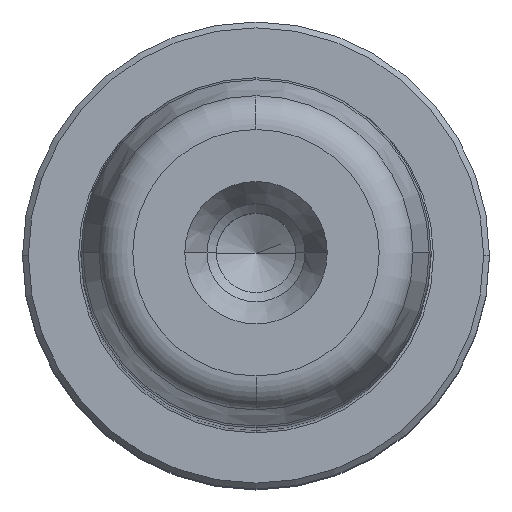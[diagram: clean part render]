
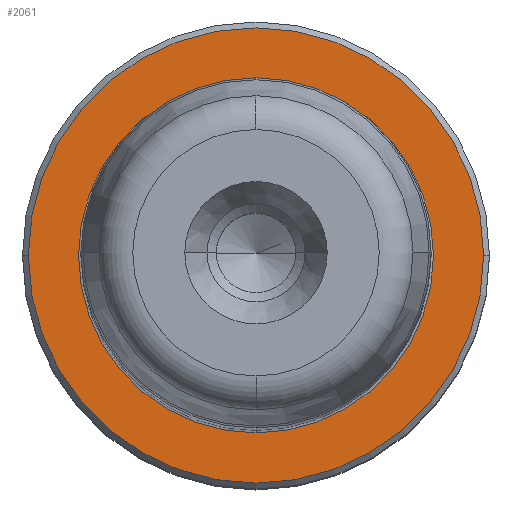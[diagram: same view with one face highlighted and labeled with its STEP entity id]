
A CAD part, top view. The second image highlights one B-rep face of the part: STEP entity #2061.
In plain terms, the highlighted planar face has unit normal (0, 0, 1).
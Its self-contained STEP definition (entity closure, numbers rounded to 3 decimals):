
#898=CARTESIAN_POINT('',(0.0,-15.2,5.));
#899=VERTEX_POINT('',#898);
#907=CARTESIAN_POINT('',(15.2,0.,5.0));
#908=VERTEX_POINT('',#907);
#909=CARTESIAN_POINT('',(0.0,0.,5.0));
#910=DIRECTION('',(0.0,0.0,1.0));
#911=DIRECTION('',(1.0,0.0,0.0));
#912=AXIS2_PLACEMENT_3D('',#909,#910,#911);
#913=CIRCLE('',#912,15.2);
#914=EDGE_CURVE('',#899,#908,#913,.T.);
#916=CARTESIAN_POINT('',(0.,15.2,5.));
#917=VERTEX_POINT('',#916);
#918=CARTESIAN_POINT('',(0.0,0.,5.0));
#919=DIRECTION('',(0.0,0.0,1.0));
#920=DIRECTION('',(1.0,0.0,0.0));
#921=AXIS2_PLACEMENT_3D('',#918,#919,#920);
#922=CIRCLE('',#921,15.2);
#923=EDGE_CURVE('',#908,#917,#922,.T.);
#950=CARTESIAN_POINT('',(19.5,0.,5.0));
#951=VERTEX_POINT('',#950);
#960=CARTESIAN_POINT('',(-19.5,0.,5.0));
#961=VERTEX_POINT('',#960);
#962=CARTESIAN_POINT('',(0.0,0.,5.0));
#963=DIRECTION('',(0.0,0.0,1.0));
#964=DIRECTION('',(1.0,0.0,0.0));
#965=AXIS2_PLACEMENT_3D('',#962,#963,#964);
#966=CIRCLE('',#965,19.5);
#967=EDGE_CURVE('',#961,#951,#966,.T.);
#2031=CARTESIAN_POINT('',(0.0,0.,5.0));
#2032=DIRECTION('',(0.0,0.0,1.0));
#2033=DIRECTION('',(1.0,0.0,0.0));
#2034=AXIS2_PLACEMENT_3D('',#2031,#2032,#2033);
#2035=CIRCLE('',#2034,19.5);
#2036=EDGE_CURVE('',#951,#961,#2035,.T.);
#2041=CARTESIAN_POINT('',(17.35,0.,5.0));
#2042=DIRECTION('',(0.0,0.0,1.0));
#2043=DIRECTION('',(0.0,-1.0,0.0));
#2044=AXIS2_PLACEMENT_3D('',#2041,#2042,#2043);
#2045=PLANE('',#2044);
#2046=ORIENTED_EDGE('',*,*,#2036,.T.);
#2047=ORIENTED_EDGE('',*,*,#967,.T.);
#2048=EDGE_LOOP('',(#2046,#2047));
#2049=FACE_OUTER_BOUND('',#2048,.T.);
#2050=ORIENTED_EDGE('',*,*,#923,.F.);
#2051=ORIENTED_EDGE('',*,*,#914,.F.);
#2052=CARTESIAN_POINT('',(0.0,0.,5.0));
#2053=DIRECTION('',(0.0,0.0,1.0));
#2054=DIRECTION('',(1.0,0.0,0.0));
#2055=AXIS2_PLACEMENT_3D('',#2052,#2053,#2054);
#2056=CIRCLE('',#2055,15.2);
#2057=EDGE_CURVE('',#917,#899,#2056,.T.);
#2058=ORIENTED_EDGE('',*,*,#2057,.F.);
#2059=EDGE_LOOP('',(#2050,#2051,#2058));
#2060=FACE_BOUND('',#2059,.T.);
#2061=ADVANCED_FACE('',(#2049,#2060),#2045,.T.);
